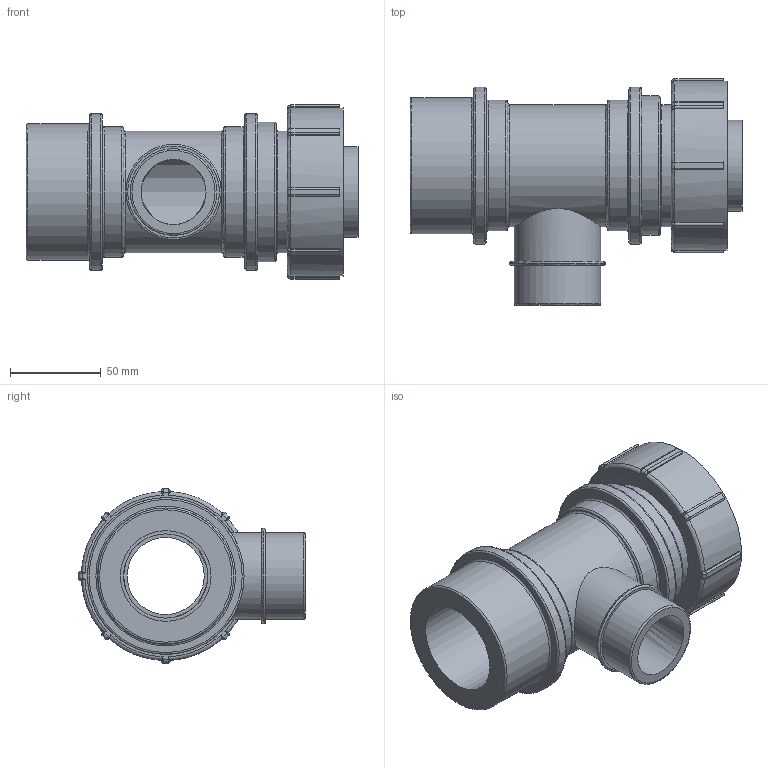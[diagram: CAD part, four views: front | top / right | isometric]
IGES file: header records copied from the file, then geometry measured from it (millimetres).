
Global section: file name: 0784L60500150A.ipt; native system: Autodesk Inventor 2015; preprocessor: unknown; author: KIM; date: 20180409.130818; units: millimetre
Bounding box: 183 x 125 x 96 mm (x, y, z)
Volume: 526058.2 mm3; surface area: 102688.7 mm2
Topology: 1 solids, 1 shells, 166 faces, 424 edges, 276 vertices
Faces by surface type: revolution 63, cylinder 53, plane 50
Full cylindrical faces by diameter (mm): 47.803 x2, 50 x1, 52.583 x1, 67.2 x2, 72 x2, 75 x1, 76.8 x1, 86.4 x2, 93.12 x1
